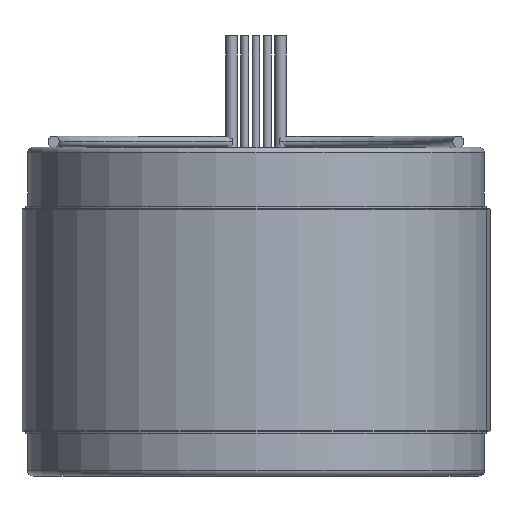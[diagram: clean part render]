
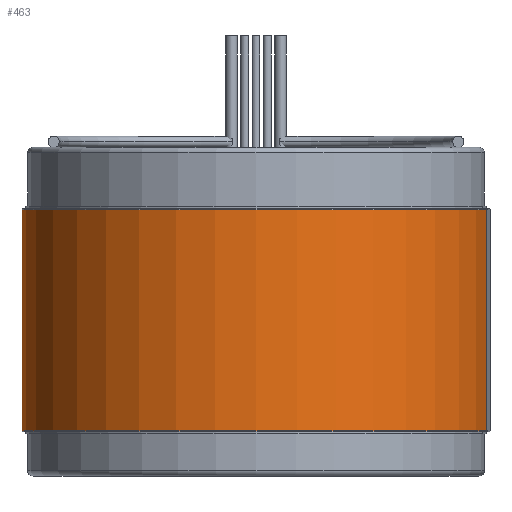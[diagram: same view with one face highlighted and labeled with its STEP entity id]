
A CAD part, front view. The second image highlights one B-rep face of the part: STEP entity #463.
In plain terms, the highlighted cylindrical face has radius 53.34 mm (diameter 106.68 mm), a partial arc.
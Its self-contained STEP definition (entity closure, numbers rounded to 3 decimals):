
#74 = VECTOR ( 'NONE', #2552, 1000. ) ;
#242 = VERTEX_POINT ( 'NONE', #271 ) ;
#271 = CARTESIAN_POINT ( 'NONE',  ( -53.34, 0., 25.197 ) ) ;
#424 = DIRECTION ( 'NONE',  ( 0., 0., 1. ) ) ;
#443 = ORIENTED_EDGE ( 'NONE', *, *, #1970, .T. ) ;
#463 = ADVANCED_FACE ( 'NONE', ( #702 ), #956, .T. ) ;
#702 = FACE_OUTER_BOUND ( 'NONE', #2599, .T. ) ;
#736 = LINE ( 'NONE', #807, #74 ) ;
#807 = CARTESIAN_POINT ( 'NONE',  ( 53.34, 0., -25.908 ) ) ;
#833 = DIRECTION ( 'NONE',  ( 0., 0., 1. ) ) ;
#956 = CYLINDRICAL_SURFACE ( 'NONE', #2091, 53.34 ) ;
#1431 = DIRECTION ( 'NONE',  ( 0., 0., 1. ) ) ;
#1438 = VERTEX_POINT ( 'NONE', #1827 ) ;
#1460 = CARTESIAN_POINT ( 'NONE',  ( -53.34, 0., -25.908 ) ) ;
#1535 = CARTESIAN_POINT ( 'NONE',  ( 0., 0., -25.197 ) ) ;
#1544 = DIRECTION ( 'NONE',  ( 1., 0., 0. ) ) ;
#1608 = EDGE_CURVE ( 'NONE', #2304, #2755, #736, .T. ) ;
#1645 = ORIENTED_EDGE ( 'NONE', *, *, #1657, .F. ) ;
#1654 = DIRECTION ( 'NONE',  ( 1., 0., 0. ) ) ;
#1657 = EDGE_CURVE ( 'NONE', #1438, #242, #2186, .T. ) ;
#1827 = CARTESIAN_POINT ( 'NONE',  ( -53.34, 0., -25.197 ) ) ;
#1970 = EDGE_CURVE ( 'NONE', #1438, #2304, #2772, .T. ) ;
#2040 = CIRCLE ( 'NONE', #2625, 53.34 ) ;
#2091 = AXIS2_PLACEMENT_3D ( 'NONE', #2518, #1431, #1654 ) ;
#2177 = DIRECTION ( 'NONE',  ( 0., 0., 1. ) ) ;
#2185 = ORIENTED_EDGE ( 'NONE', *, *, #2636, .F. ) ;
#2186 = LINE ( 'NONE', #1460, #2828 ) ;
#2270 = CARTESIAN_POINT ( 'NONE',  ( 53.34, 0., 25.197 ) ) ;
#2295 = CARTESIAN_POINT ( 'NONE',  ( 53.34, 0., -25.197 ) ) ;
#2304 = VERTEX_POINT ( 'NONE', #2295 ) ;
#2518 = CARTESIAN_POINT ( 'NONE',  ( 0., 0., -25.908 ) ) ;
#2520 = ORIENTED_EDGE ( 'NONE', *, *, #1608, .T. ) ;
#2552 = DIRECTION ( 'NONE',  ( 0., 0., 1. ) ) ;
#2599 = EDGE_LOOP ( 'NONE', ( #1645, #443, #2520, #2185 ) ) ;
#2623 = CARTESIAN_POINT ( 'NONE',  ( 0., 0., 25.197 ) ) ;
#2625 = AXIS2_PLACEMENT_3D ( 'NONE', #2623, #2177, #1544 ) ;
#2636 = EDGE_CURVE ( 'NONE', #242, #2755, #2040, .T. ) ;
#2712 = DIRECTION ( 'NONE',  ( 1., 0., 0. ) ) ;
#2753 = AXIS2_PLACEMENT_3D ( 'NONE', #1535, #424, #2712 ) ;
#2755 = VERTEX_POINT ( 'NONE', #2270 ) ;
#2772 = CIRCLE ( 'NONE', #2753, 53.34 ) ;
#2828 = VECTOR ( 'NONE', #833, 1000. ) ;
